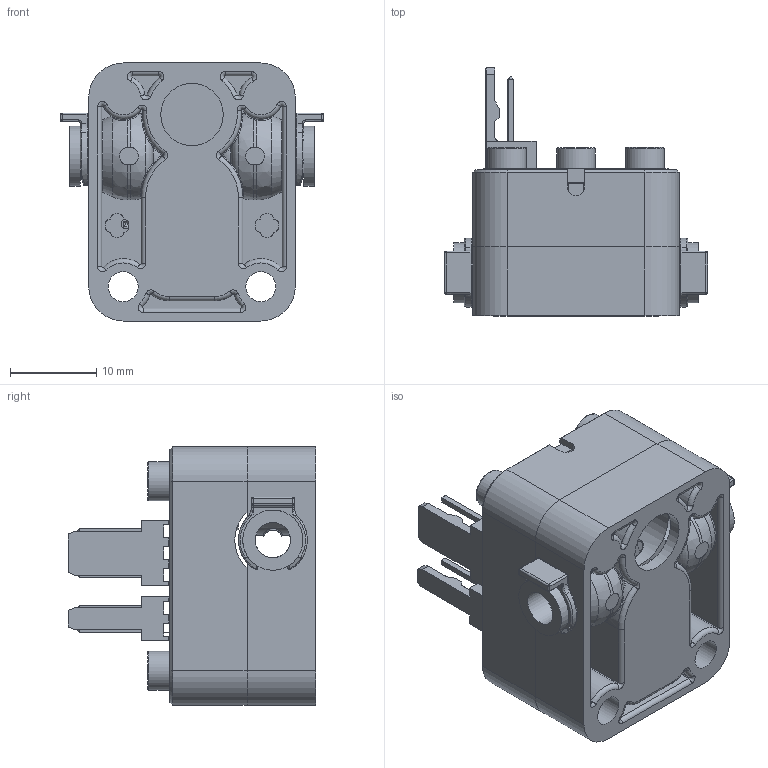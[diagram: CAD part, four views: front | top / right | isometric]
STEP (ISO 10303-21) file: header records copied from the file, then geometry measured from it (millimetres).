
FILE_DESCRIPTION(/* description */ (''),/* implementation_level */ '2;1');
FILE_NAME(/* name */ 'Duet Filament Monitor - Assembled.step',/* time_stamp */ '2025-10-04T11:11:44+03:00',/* author */ (''),/* organization */ (''),/* preprocessor_version */ 'ST-DEVELOPER v20.1',/* originating_system */ 'Autodesk Translation Framework v14.17.0.0',/* authorisation */ '');
FILE_SCHEMA (('AUTOMOTIVE_DESIGN { 1 0 10303 214 3 1 1 }'));
Length unit declared in the file: millimetre
Products named in the file (1): Fusion
Bounding box: 30.6 x 28.79 x 30 mm (x, y, z)
Surface area: 7175.8 mm2 (no closed solid volume)
Topology: 0 solids, 16 shells, 494 faces, 1550 edges, 1024 vertices
Faces by surface type: plane 211, cylinder 144, torus 61, bspline 49, sphere 18, cone 11
Full cylindrical faces by diameter (mm): 0.6 x1, 0.762 x2, 3.5 x4, 4.1 x2, 4.5 x3, 4.8 x2, 7 x2, 7.25 x1, 7.3 x1, 8.5 x1
Entity records: 26729 total; most frequent: CARTESIAN_POINT 13336, DIRECTION 2789, ORIENTED_EDGE 2601, EDGE_CURVE 1522, VERTEX_POINT 1024, AXIS2_PLACEMENT_3D 1005, LINE 779, VECTOR 779
